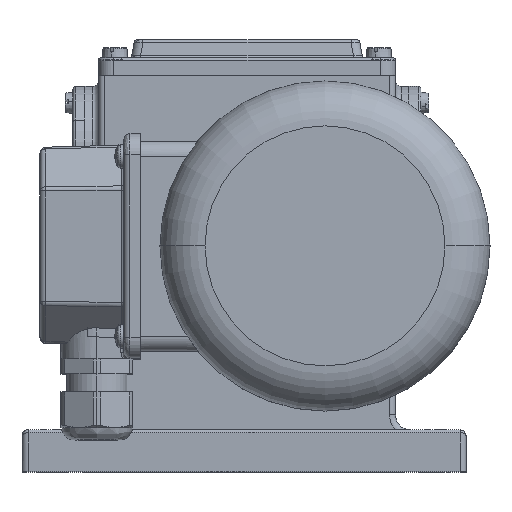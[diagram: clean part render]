
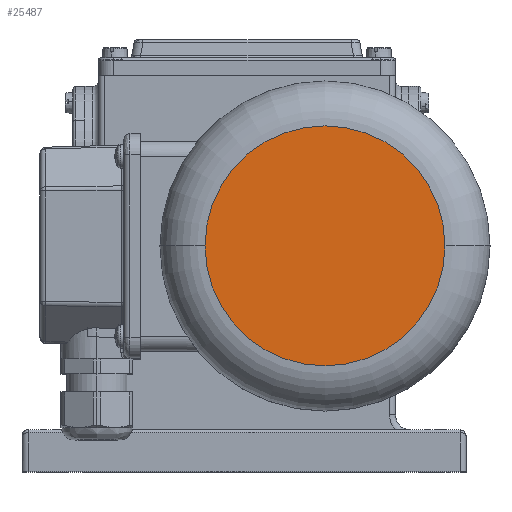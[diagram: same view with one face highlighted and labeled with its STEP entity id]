
A CAD part, top view. The second image highlights one B-rep face of the part: STEP entity #25487.
In plain terms, the highlighted planar face has unit normal (0, 0, 1) as drawn and (-1, 0, 0) by its records, which use the part's own axes.
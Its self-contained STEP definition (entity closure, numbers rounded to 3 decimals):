
#4961 = DIRECTION ( 'NONE',  ( -1., 0., 0. ) ) ;
#5231 = AXIS2_PLACEMENT_3D ( 'NONE', #22227, #20034, #8019 ) ;
#5458 = VERTEX_POINT ( 'NONE', #17722 ) ;
#5669 = VERTEX_POINT ( 'NONE', #12224 ) ;
#8019 = DIRECTION ( 'NONE',  ( 0., 0., -1. ) ) ;
#9450 = FACE_OUTER_BOUND ( 'NONE', #28022, .T. ) ;
#10523 = AXIS2_PLACEMENT_3D ( 'NONE', #12436, #4961, #26686 ) ;
#11156 = DIRECTION ( 'NONE',  ( 0., 0., -1. ) ) ;
#11313 = DIRECTION ( 'NONE',  ( 1., 0., 0. ) ) ;
#12224 = CARTESIAN_POINT ( 'NONE',  ( 0., 0., 40. ) ) ;
#12248 = AXIS2_PLACEMENT_3D ( 'NONE', #25550, #11313, #11156 ) ;
#12436 = CARTESIAN_POINT ( 'NONE',  ( 0., 0., 0. ) ) ;
#13556 = EDGE_CURVE ( 'NONE', #5669, #5458, #20205, .T. ) ;
#16506 = ORIENTED_EDGE ( 'NONE', *, *, #13556, .T. ) ;
#17722 = CARTESIAN_POINT ( 'NONE',  ( 0., 0., -40. ) ) ;
#20034 = DIRECTION ( 'NONE',  ( -1., 0., 0. ) ) ;
#20205 = CIRCLE ( 'NONE', #5231, 40. ) ;
#20523 = CIRCLE ( 'NONE', #10523, 40. ) ;
#22227 = CARTESIAN_POINT ( 'NONE',  ( 0., 0., 0. ) ) ;
#22603 = EDGE_CURVE ( 'NONE', #5458, #5669, #20523, .T. ) ;
#25487 = ADVANCED_FACE ( 'NONE', ( #9450 ), #25712, .F. ) ;
#25550 = CARTESIAN_POINT ( 'NONE',  ( 0., 0., 0. ) ) ;
#25712 = PLANE ( 'NONE',  #12248 ) ;
#26686 = DIRECTION ( 'NONE',  ( 0., 0., -1. ) ) ;
#27845 = ORIENTED_EDGE ( 'NONE', *, *, #22603, .T. ) ;
#28022 = EDGE_LOOP ( 'NONE', ( #27845, #16506 ) ) ;
